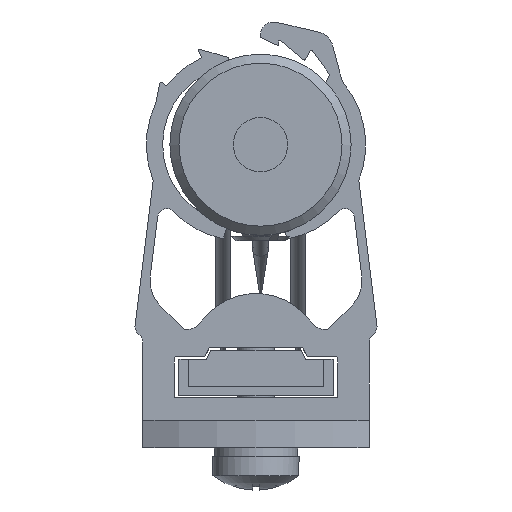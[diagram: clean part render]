
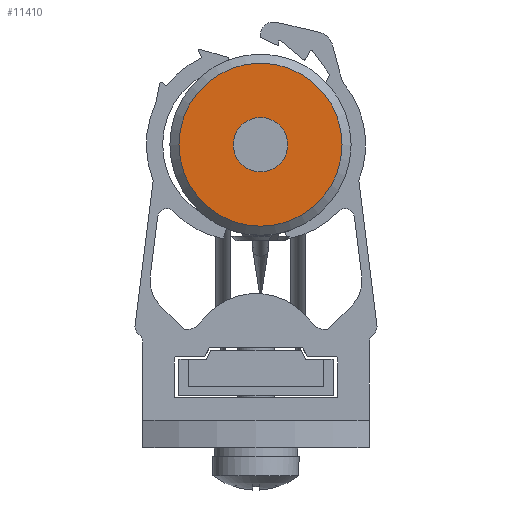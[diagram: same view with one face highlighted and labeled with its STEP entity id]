
A CAD part, left-side view. The second image highlights one B-rep face of the part: STEP entity #11410.
In plain terms, the highlighted planar face has unit normal (-1, 0, 0).
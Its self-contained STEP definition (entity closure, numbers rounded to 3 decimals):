
#11410=ADVANCED_FACE('', (#11420,#11430), #11440, .T.);
#39990=AXIS2_PLACEMENT_3D('Ax2Pl3d', #40000, #40010, #40020);
#40070=AXIS2_PLACEMENT_3D('Ax2Pl3d', #40080, #40090, #40100);
#40110=AXIS2_PLACEMENT_3D('Ax2Pl3d', #40120, #40130, #40140);
#40000=CARTESIAN_POINT('HicPkt', (65.629,87.05,
32.806));
#59670=CARTESIAN_POINT('', (65.629,84.05,32.806));
#40080=CARTESIAN_POINT('HicPkt', (65.629,78.05,
32.806));
#40120=CARTESIAN_POINT('HicPkt', (65.629,87.05,
32.806));
#59690=CARTESIAN_POINT('', (65.629,78.05,32.806));
#63500=CIRCLE('Circle', #39990, 3.);
#63520=CIRCLE('Circle', #40110, 9.);
#40010=DIRECTION('Axis', (-1.,0.,
0.));
#40020=DIRECTION('RefDirection', (0.,
0.,-1.));
#40090=DIRECTION('Axis', (-1.,0.,0.)
);
#40100=DIRECTION('RefDirection', (0.,
0.,-1.));
#40130=DIRECTION('Axis', (-1.,0.,0.)
);
#40140=DIRECTION('RefDirection', (0.,
0.,-1.));
#113440=EDGE_CURVE('', #113450, #113450, #63500, .T.);
#113480=EDGE_CURVE('', #113490, #113490, #63520, .T.);
#135310=EDGE_LOOP('Edge_loop', (#135320));
#135330=EDGE_LOOP('Edge_loop', (#135340));
#11430=FACE_BOUND('', #135330, .T.);
#11420=FACE_OUTER_BOUND('Face_outer_bound', #135310, .T.);
#135320=ORIENTED_EDGE('', *, *, #113480, .T.);
#135340=ORIENTED_EDGE('', *, *, #113440, .F.);
#11440=PLANE('Plane', #40070);
#113450=VERTEX_POINT('', #59670);
#113490=VERTEX_POINT('', #59690);
